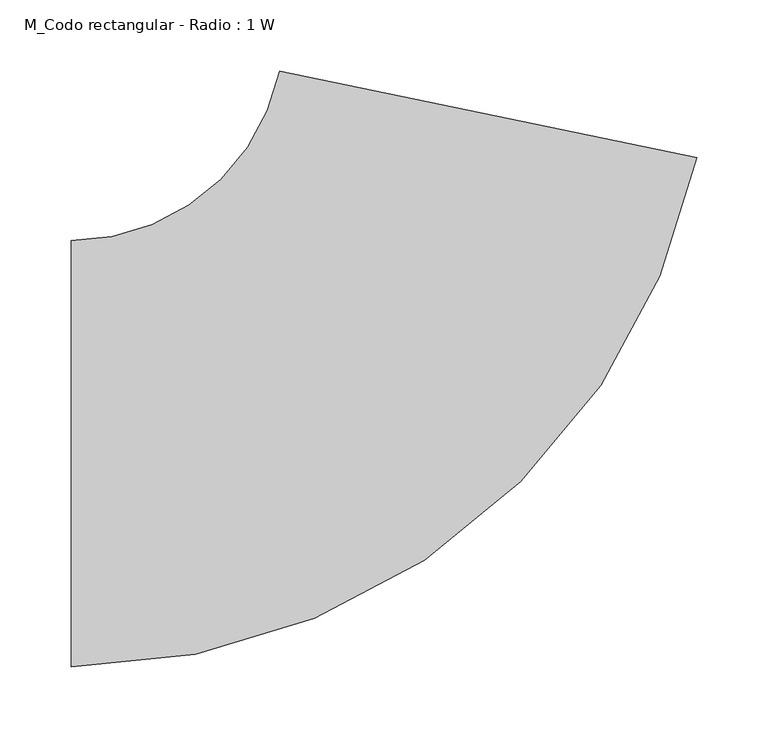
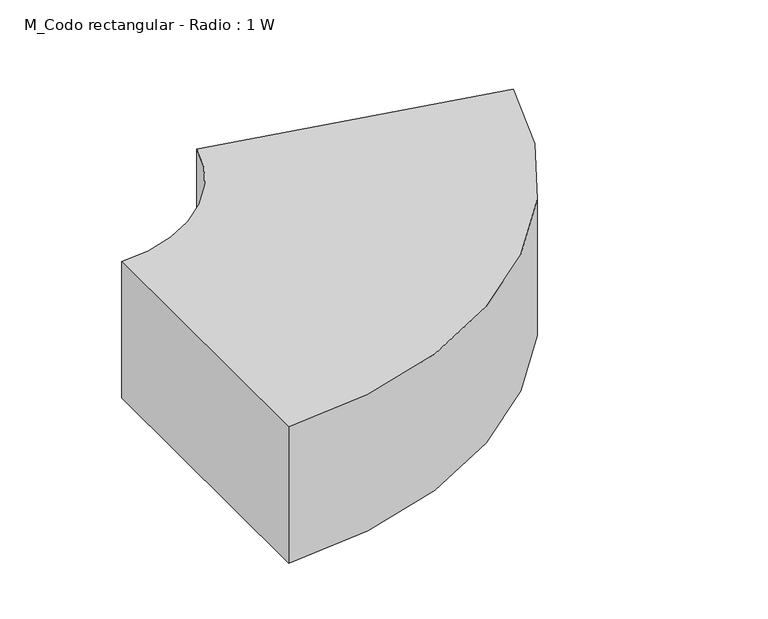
"""IFC4 building model written with IfcOpenShell, lengths in millimetres: duct fitting geometry, M_Codo rectangular - Radio : 1 W."""

from ifc_helpers import new_model, si_unit, point, frame, frame_2d, origin, place, context, project, spatial, polyline, circle_curve, trimmed, segment, composite_curve, outline, extrude, source, transform, mapped, element, save


def m_codo_rectangular_radio_1_w_f7a900e0(model_context):
    return source(origin(), model_context, "Body", "SweptSolid", [
        extrude(outline(composite_curve([segment(trimmed(circle_curve(frame_2d((-244.2024431, 300.0)), 450.0), [point((196.4346614, 208.6821915))], [point((-244.2024431, -150.0))], False, "CARTESIAN"), True, "CONTINUOUS"), segment(polyline([(-244.2024431, -150.0), (-244.2024431, 150.0)]), True, "CONTINUOUS"), segment(trimmed(circle_curve(frame_2d((-244.2024431, 300.0)), 150.0), [point((-244.2024431, 150.0))], [point((-97.3234083, 269.5607305))], True, "CARTESIAN"), True, "CONTINUOUS"), segment(polyline([(-97.3234083, 269.5607305), (196.4346614, 208.6821915)]), True, "CONTINUOUS")], self_intersect=False)), frame((0.0, 0.0, -75.0), z_axis=(0.0, 0.0, 1.0), x_axis=(1.0, 0.0, 0.0)), (0.0, 0.0, 1.0), 150.0),
    ])


if __name__ == "__main__":
    model = new_model("IFC4")
    model_context = context("Model", 3, world=origin())
    ifc_project = project(units=[si_unit("LENGTHUNIT", "METRE", prefix="MILLI")], contexts=[model_context])
    site = spatial("IfcSite", under=ifc_project)
    building = spatial("IfcBuilding", under=site)
    placement = place(None, origin())
    m_codo_rectangular_radio_1_w_shape = m_codo_rectangular_radio_1_w_f7a900e0(model_context)
    element("IfcDuctFitting", 1, ObjectType="M_Codo rectangular - Radio : 1 W", at=placement, inside=building, context=model_context, shape_type="MappedRepresentation", body=[
        mapped(m_codo_rectangular_radio_1_w_shape, transform((0.0, 0.0, 0.0), x_axis=(1.0, 0.0, 0.0), y_axis=(0.0, 1.0, 0.0), z_axis=(0.0, 0.0, 1.0))),
    ])
    save(model, "model.ifc")
